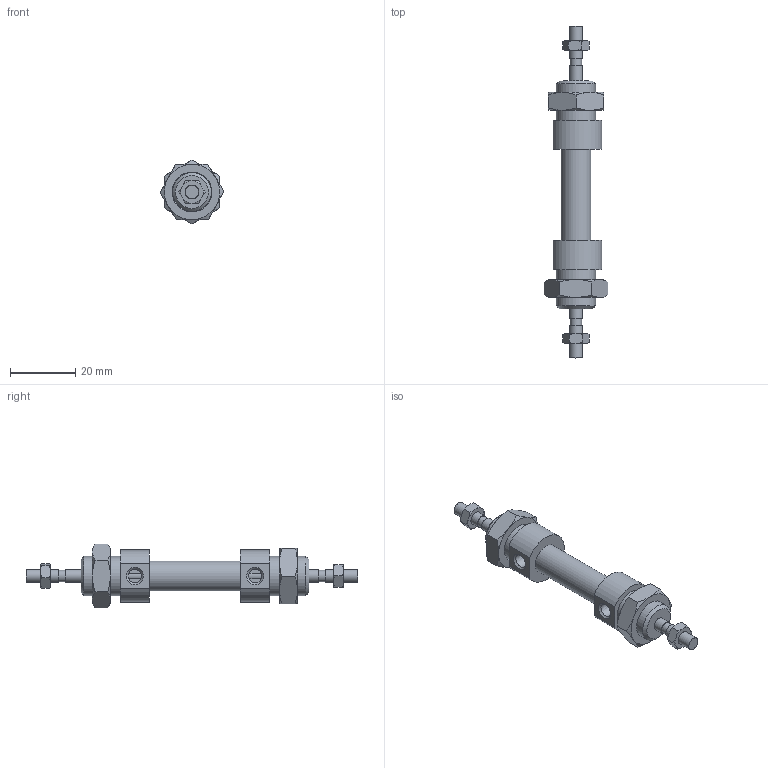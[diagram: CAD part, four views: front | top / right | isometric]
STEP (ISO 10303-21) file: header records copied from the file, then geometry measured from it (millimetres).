
FILE_DESCRIPTION((''),'2;1');
FILE_NAME('I:\Area Tecnica\Disegni\VARIE-3D\Componenti\1280\1282_##_####_#\1282_08_0000.iam.stp','2009-06-03T15:23:03',(''),(''),'Autodesk Inventor 2010','Autodesk Inventor 2010','');
FILE_SCHEMA(('AUTOMOTIVE_DESIGN { 1 0 10303 214 1 1 1 1 }'));
Length unit declared in the file: millimetre
Products named in the file (5): 1282_08_0000; C1282_08_0; S1282_08_0; 1200_08_05; 1200_08_06
Assembly tree (6 placements, depth 2):
  1282_08_0000
    C1282_08_0
    S1282_08_0
    1200_08_05  x2
    1200_08_06  x2
Bounding box: 19.63 x 102 x 19.63 mm (x, y, z)
Volume: 10207.6 mm3; surface area: 7367.6 mm2
Topology: 6 solids, 6 shells, 127 faces, 271 edges, 162 vertices
Faces by surface type: cone 52, plane 46, bspline 18, cylinder 11
Full cylindrical faces by diameter (mm): 3.5 x2, 4 x4, 9.2 x1, 12 x2
Entity records: 2371 total; most frequent: CARTESIAN_POINT 641, DIRECTION 310, ORIENTED_EDGE 280, AXIS2_PLACEMENT_3D 143, EDGE_CURVE 140, EDGE_LOOP 120, VERTEX_POINT 96, STYLED_ITEM 85
